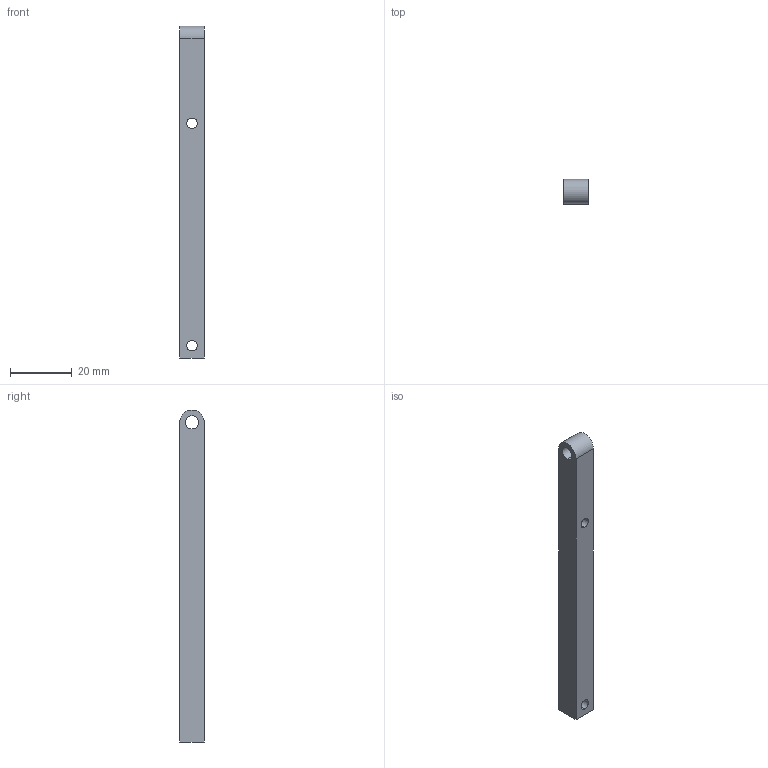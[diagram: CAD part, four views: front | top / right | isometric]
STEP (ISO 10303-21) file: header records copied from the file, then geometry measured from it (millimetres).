
FILE_DESCRIPTION((''),'2;1');
FILE_NAME('DISPLAYSTECK','2016-10-19T',('Tim'),(''),'CREO PARAMETRIC BY PTC INC, 2015380','CREO PARAMETRIC BY PTC INC, 2015380','');
FILE_SCHEMA(('CONFIG_CONTROL_DESIGN'));
Length unit declared in the file: millimetre
Products named in the file (1): DISPLAYSTECK
Bounding box: 8 x 8 x 107.5 mm (x, y, z)
Volume: 6563.6 mm3; surface area: 3740.4 mm2
Topology: 1 solids, 1 shells, 12 faces, 30 edges, 20 vertices
Faces by surface type: cylinder 7, plane 5
Entity records: 418 total; most frequent: DIRECTION 68, CARTESIAN_POINT 62, ORIENTED_EDGE 60, EDGE_CURVE 30, AXIS2_PLACEMENT_3D 26, VERTEX_POINT 20, EDGE_LOOP 18, VECTOR 16
